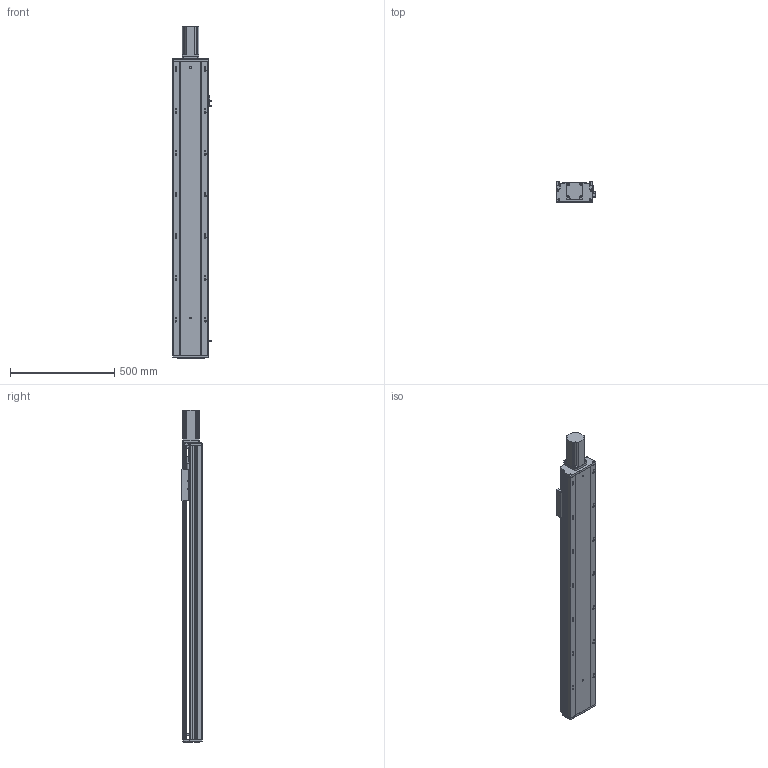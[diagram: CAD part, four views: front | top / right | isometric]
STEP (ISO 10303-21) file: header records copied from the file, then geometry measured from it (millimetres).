
FILE_DESCRIPTION (( 'STEP AP203' ), '1' );
FILE_NAME ('RY170-L2510-300-MK(FK17).SLDASM_1100.step', '2022-08-23T02:00:53', ( '' ), ( '' ), 'SwSTEP 2.0', 'SolidWorks 2016', '' );
FILE_SCHEMA (( 'CONFIG_CONTROL_DESIGN' ));
Length unit declared in the file: millimetre
Products named in the file (15): RY170臏賑輸25佪裝蹟譫; 侂狟400W侜督萇儂; RY170电机端支撑座(25丝杆7004轴承)-压铸(FK17); RY170外置感应片(200共用）; RY170-300倰第菁釱-MK_1100; 750W萇儂梓袧蛌諉啣; RY170-L2510-300-MK(FK17).SLDASM_1100; 15; 滅袉蝶18-10; 覜茼ん672; 滅袉蝶18-28; 侂狟750W萇儂ㄗ80遺ㄘ; RY170ヶ醱裔啣; RY170綴裔啣; RY170-300倰第裔啣-MK_1100
Assembly tree (16 placements, depth 3):
  RY170-L2510-300-MK(FK17).SLDASM_1100
    RY170-300倰第菁釱-MK_1100
    RY170-300倰第裔啣-MK_1100
    RY170臏賑輸25佪裝蹟譫
    侂狟400W侜督萇儂
      15
    RY170綴裔啣
    RY170电机端支撑座(25丝杆7004轴承)-压铸(FK17)
    覜茼ん672  x3
    RY170外置感应片(200共用）
    RY170ヶ醱裔啣
    滅袉蝶18-28
    滅袉蝶18-10
    侂狟750W萇儂ㄗ80遺ㄘ
    750W萇儂梓袧蛌諉啣
Bounding box: 183.7 x 97 x 1591 mm (x, y, z)
Volume: 8170261.8 mm3; surface area: 2447828.1 mm2
Topology: 15 solids, 15 shells, 2255 faces, 6415 edges, 4080 vertices
Faces by surface type: plane 1014, cylinder 942, cone 263, bspline 36
Entity records: 72267 total; most frequent: CARTESIAN_POINT 16556, ORIENTED_EDGE 11498, DIRECTION 11191, EDGE_CURVE 5749, AXIS2_PLACEMENT_3D 3904, VERTEX_POINT 3760, LINE 3383, VECTOR 3383
